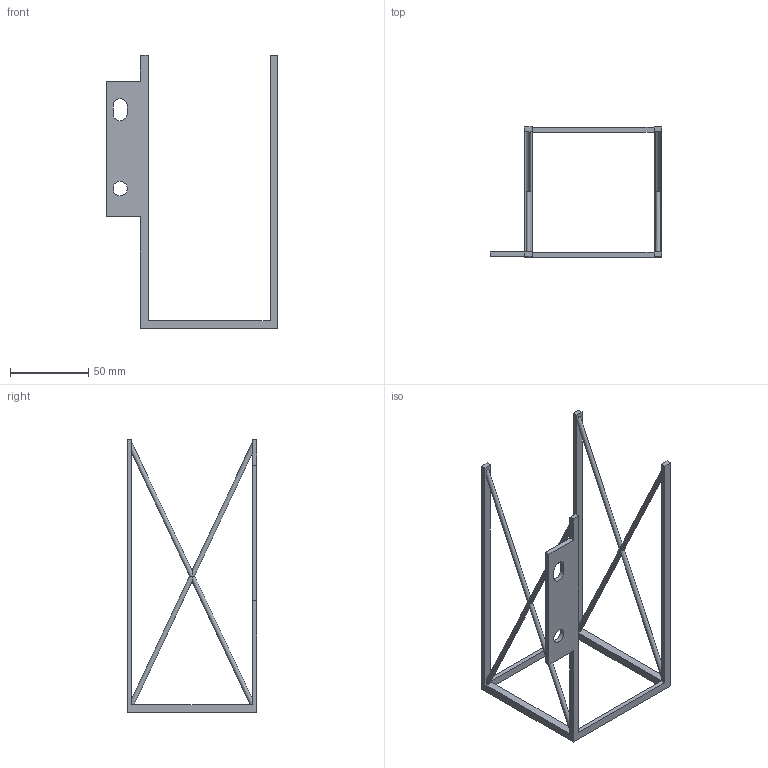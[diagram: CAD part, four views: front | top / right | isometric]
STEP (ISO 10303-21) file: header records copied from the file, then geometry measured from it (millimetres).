
FILE_DESCRIPTION(('FreeCAD Model'),'2;1');
FILE_NAME('Open CASCADE Shape Model','2026-09-11T17:58:35',( '' ),( '' ),'Open CASCADE STEP processor 7.8','FreeCAD','Unknown');
FILE_SCHEMA(('AUTOMOTIVE_DESIGN { 1 0 10303 214 1 1 1 1 }'));
Length unit declared in the file: millimetre
Products named in the file (1): Open CASCADE STEP translator 7.8 7
Bounding box: 110 x 83 x 175 mm (x, y, z)
Volume: 26933.2 mm3; surface area: 27101.9 mm2
Topology: 1 solids, 1 shells, 42 faces, 129 edges, 80 vertices
Faces by surface type: plane 31, cylinder 11
Full cylindrical faces by diameter (mm): 3 x8, 9.2 x1
Entity records: 1471 total; most frequent: ORIENTED_EDGE 258, CARTESIAN_POINT 252, DIRECTION 251, EDGE_CURVE 129, LINE 93, VECTOR 93, VERTEX_POINT 80, AXIS2_PLACEMENT_3D 79
